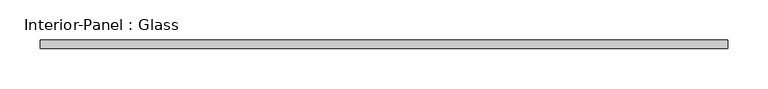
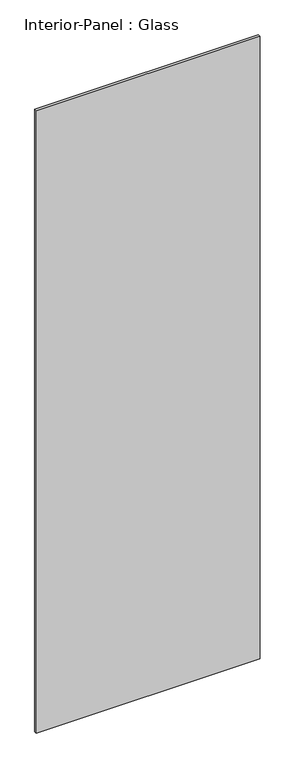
"""IFC4 building model written with IfcOpenShell, lengths in millimetres: plate geometry, Interior-Panel : Glass."""

from ifc_helpers import new_model, si_unit, origin, origin_with_axes, place, context, project, spatial, polyline, outline, extrude, source, transform, mapped, element, save


def interior_panel_glass_e7516142(model_context):
    return source(origin(), model_context, "Body", "SweptSolid", [
        extrude(outline(polyline([(425.0, 50.0), (425.0, 40.0), (-425.0, 40.0), (-425.0, 50.0), (425.0, 50.0)])), origin_with_axes(), (0.0, 0.0, 1.0), 2500.0),
    ])


if __name__ == "__main__":
    model = new_model("IFC4")
    model_context = context("Model", 3, world=origin())
    ifc_project = project(units=[si_unit("LENGTHUNIT", "METRE", prefix="MILLI")], contexts=[model_context])
    site = spatial("IfcSite", under=ifc_project)
    building = spatial("IfcBuilding", under=site)
    placement = place(None, origin())
    interior_panel_glass_shape = interior_panel_glass_e7516142(model_context)
    element("IfcPlate", 1, ObjectType="Interior-Panel : Glass", at=placement, inside=building, context=model_context, shape_type="MappedRepresentation", body=[
        mapped(interior_panel_glass_shape, transform((0.0, 0.0, 0.0), x_axis=(1.0, 0.0, 0.0), y_axis=(0.0, 1.0, 0.0), z_axis=(0.0, 0.0, 1.0))),
    ])
    save(model, "model.ifc")
